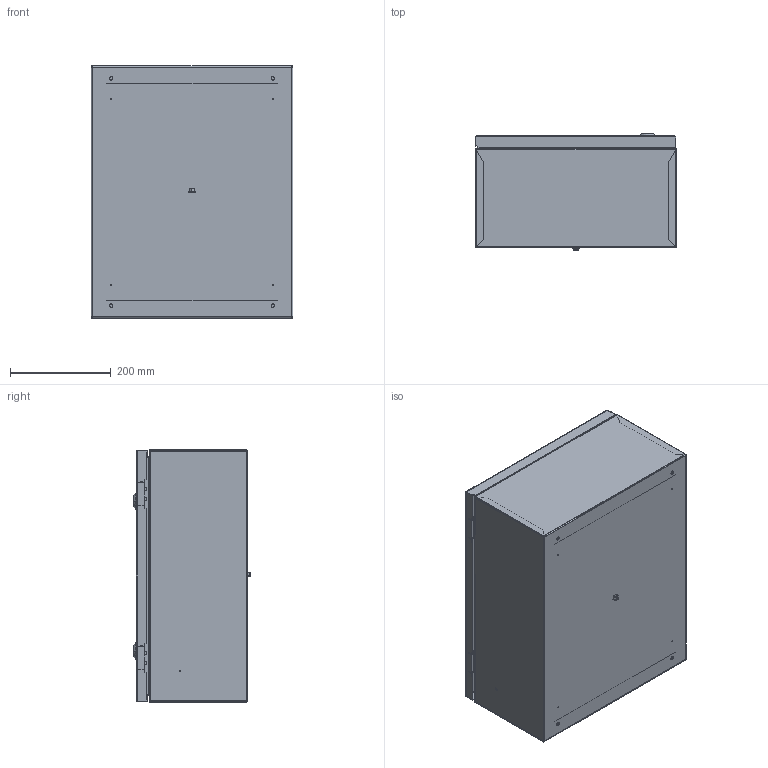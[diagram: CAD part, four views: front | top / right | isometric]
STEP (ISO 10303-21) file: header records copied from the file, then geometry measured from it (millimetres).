
FILE_DESCRIPTION (( 'STEP AP214' ), '1' );
FILE_NAME ('ÙÌÏ-02-500õ400õ220-IP31-ÓÕË3-ÊÝÀÇ.STEP', '2023-01-24T12:22:21', ( '' ), ( '' ), 'SwSTEP 2.0', 'SolidWorks 2018', '' );
FILE_SCHEMA (( 'AUTOMOTIVE_DESIGN' ));
Length unit declared in the file: millimetre
Products named in the file (1): ÙÌÏ-02-500õ400õ220-IP31-ÓÕË3-ÊÝÀÇ
Bounding box: 400 x 233.36 x 500 mm (x, y, z)
Surface area: 1806858 mm2 (no closed solid volume)
Topology: 0 solids, 34 shells, 205 faces, 739 edges, 553 vertices
Faces by surface type: plane 95, cylinder 78, cone 12, bspline 10, torus 10
Entity records: 12006 total; most frequent: CARTESIAN_POINT 3512, DIRECTION 1304, ORIENTED_EDGE 1052, EDGE_CURVE 739, VERTEX_POINT 553, AXIS2_PLACEMENT_3D 446, VECTOR 412, LINE 412
